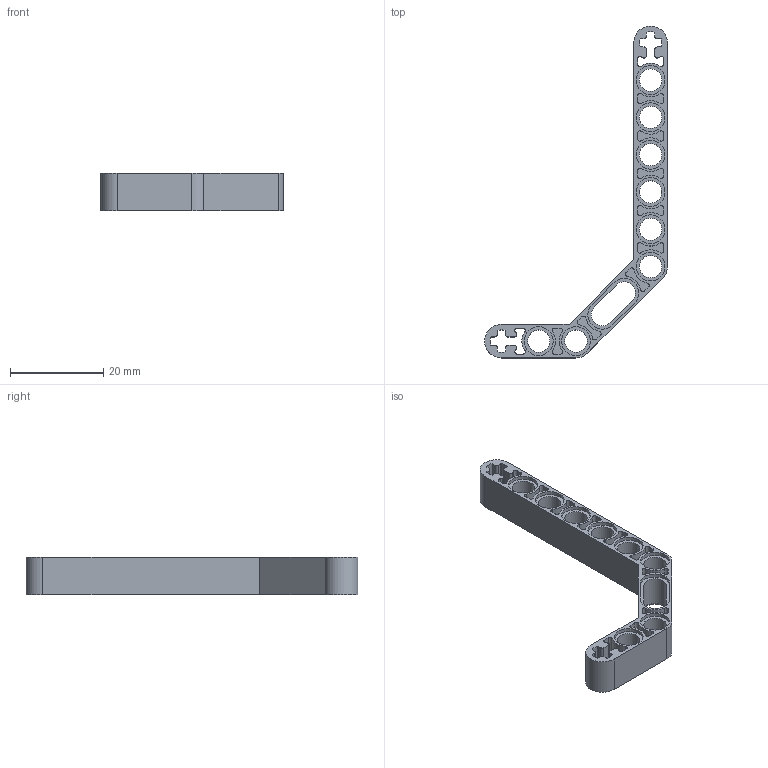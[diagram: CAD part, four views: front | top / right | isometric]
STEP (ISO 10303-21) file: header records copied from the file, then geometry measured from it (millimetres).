
FILE_DESCRIPTION(/* description */ ('Unknown'),/* implementation_level */ '2;1');
FILE_NAME(/* name */ 'Ye_4111996_JC',/* time_stamp */ '2025-07-22T00:06:26+02:00',/* author */ ('Unknown'),/* organization */ ('Unknown'),/* preprocessor_version */ 'ST-DEVELOPER v19.4',/* originating_system */ 'Solid Edge',/* authorisation */ 'Unknown');
FILE_SCHEMA (('AUTOMOTIVE_DESIGN {1 0 10303 214 3 1 1}'));
Length unit declared in the file: millimetre
Products named in the file (1): Ye_4111996_JC
Bounding box: 39.2 x 71.2 x 8 mm (x, y, z)
Volume: 2776.2 mm3; surface area: 4905.3 mm2
Topology: 1 solids, 1 shells, 274 faces, 722 edges, 484 vertices
Faces by surface type: cylinder 174, plane 100
Full cylindrical faces by diameter (mm): 4.8 x8, 6.2 x16
Entity records: 8520 total; most frequent: DIRECTION 1588, CARTESIAN_POINT 1441, ORIENTED_EDGE 1380, EDGE_CURVE 690, AXIS2_PLACEMENT_3D 623, VERTEX_POINT 476, EDGE_LOOP 354, FACE_BOUND 354
